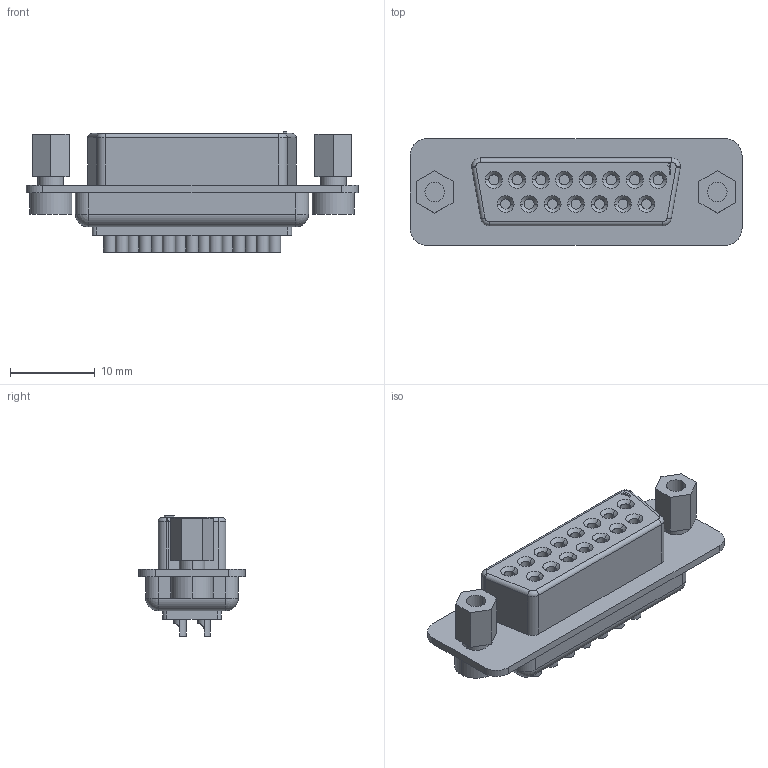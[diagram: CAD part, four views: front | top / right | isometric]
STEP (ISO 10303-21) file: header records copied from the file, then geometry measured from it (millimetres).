
FILE_DESCRIPTION (( 'STEP AP214' ), '1' );
FILE_NAME ('DB-15F.STEP', '2011-05-17T10:15:13', ( 'vpeshkov' ), ( 'licard' ), 'SwSTEP 2.0', 'SolidWorks 2009', '' );
FILE_SCHEMA (( 'AUTOMOTIVE_DESIGN' ));
Length unit declared in the file: millimetre
Products named in the file (1): DB-15F
Bounding box: 39.15 x 12.6 x 14.2 mm (x, y, z)
Volume: 3070.9 mm3; surface area: 2551.3 mm2
Topology: 1 solids, 1 shells, 312 faces, 706 edges, 436 vertices
Faces by surface type: cylinder 146, plane 126, cone 30, torus 6, sphere 4
Entity records: 11373 total; most frequent: CARTESIAN_POINT 1976, DIRECTION 1554, ORIENTED_EDGE 1404, EDGE_CURVE 702, AXIS2_PLACEMENT_3D 584, VERTEX_POINT 436, VECTOR 386, LINE 386
